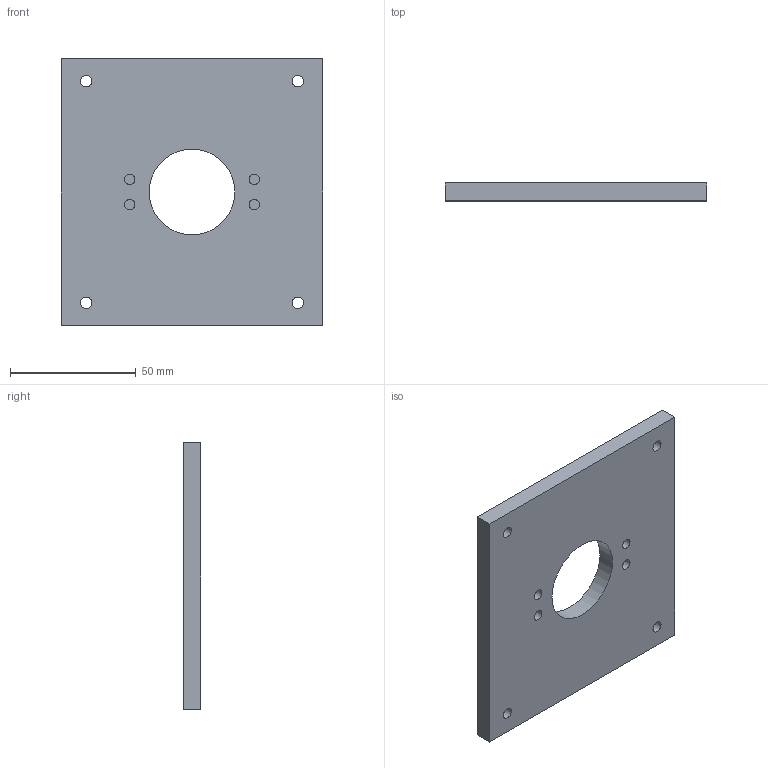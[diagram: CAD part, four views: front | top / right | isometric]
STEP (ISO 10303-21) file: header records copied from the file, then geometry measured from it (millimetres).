
FILE_DESCRIPTION(('Open CASCADE Model'),'2;1');
FILE_NAME('Open CASCADE Shape Model','2026-09-10T23:36:49',('Author'),( 'Open CASCADE'),'Open CASCADE STEP processor 7.9','Open CASCADE 7.9' ,'Unknown');
FILE_SCHEMA(('AUTOMOTIVE_DESIGN { 1 0 10303 214 1 1 1 1 }'));
Length unit declared in the file: millimetre
Products named in the file (1): Open CASCADE STEP translator 7.9 5
Bounding box: 104 x 7 x 106 mm (x, y, z)
Volume: 70034.7 mm3; surface area: 24505.1 mm2
Topology: 1 solids, 1 shells, 19 faces, 39 edges, 26 vertices
Faces by surface type: plane 10, cylinder 9
Full cylindrical faces by diameter (mm): 4.2 x4, 4.5 x4, 34 x1
Entity records: 1063 total; most frequent: CARTESIAN_POINT 193, DIRECTION 170, LINE 81, VECTOR 81, ORIENTED_EDGE 78, PCURVE 78, DEFINITIONAL_REPRESENTATION 78, EDGE_CURVE 39
